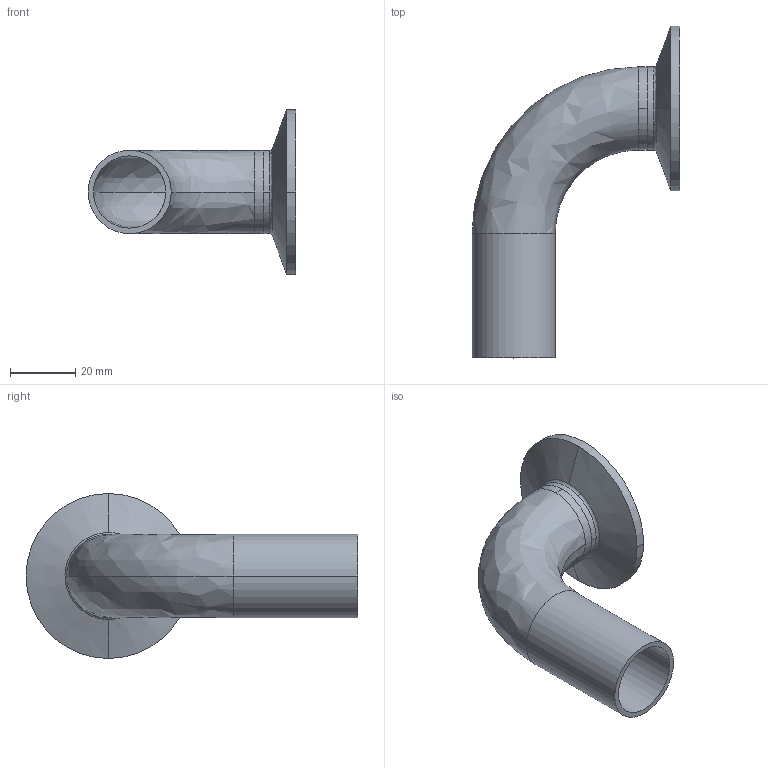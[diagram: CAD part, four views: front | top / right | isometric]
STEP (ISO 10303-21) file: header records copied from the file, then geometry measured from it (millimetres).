
FILE_DESCRIPTION (( 'STEP AP214' ), '1' );
FILE_NAME ('TE2C6L1.0-...STEP', '2016-05-22T09:31:00', ( 'eran' ), ( '' ), 'SwSTEP 2.0', 'SolidWorks 2016', '' );
FILE_SCHEMA (( 'AUTOMOTIVE_DESIGN' ));
Length unit declared in the file: millimetre
Products named in the file (1): TE2C6L1.0-..
Bounding box: 63.5 x 101.4 x 50.39 mm (x, y, z)
Volume: 20691.4 mm3; surface area: 19987.5 mm2
Topology: 2 solids, 2 shells, 39 faces, 98 edges, 64 vertices
Faces by surface type: bspline 14, cylinder 14, cone 6, plane 5
Entity records: 1805 total; most frequent: CARTESIAN_POINT 814, DIRECTION 216, ORIENTED_EDGE 196, EDGE_CURVE 98, AXIS2_PLACEMENT_3D 98, CIRCLE 72, VERTEX_POINT 64, EDGE_LOOP 44
